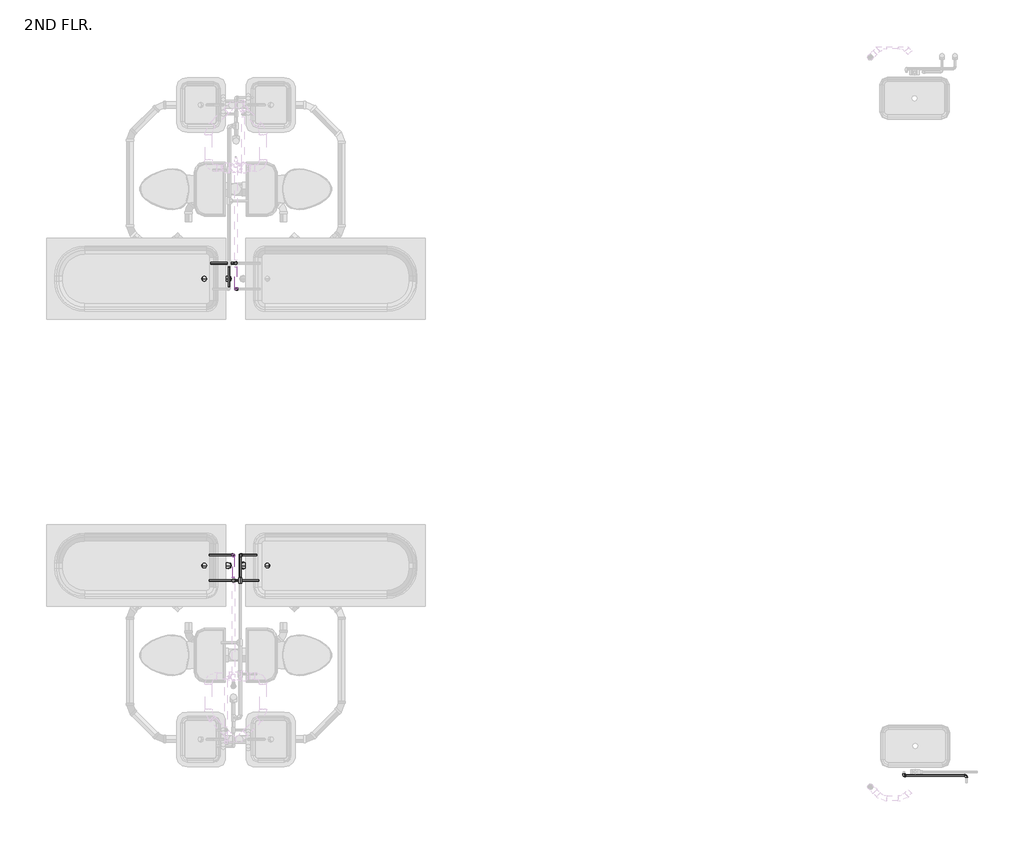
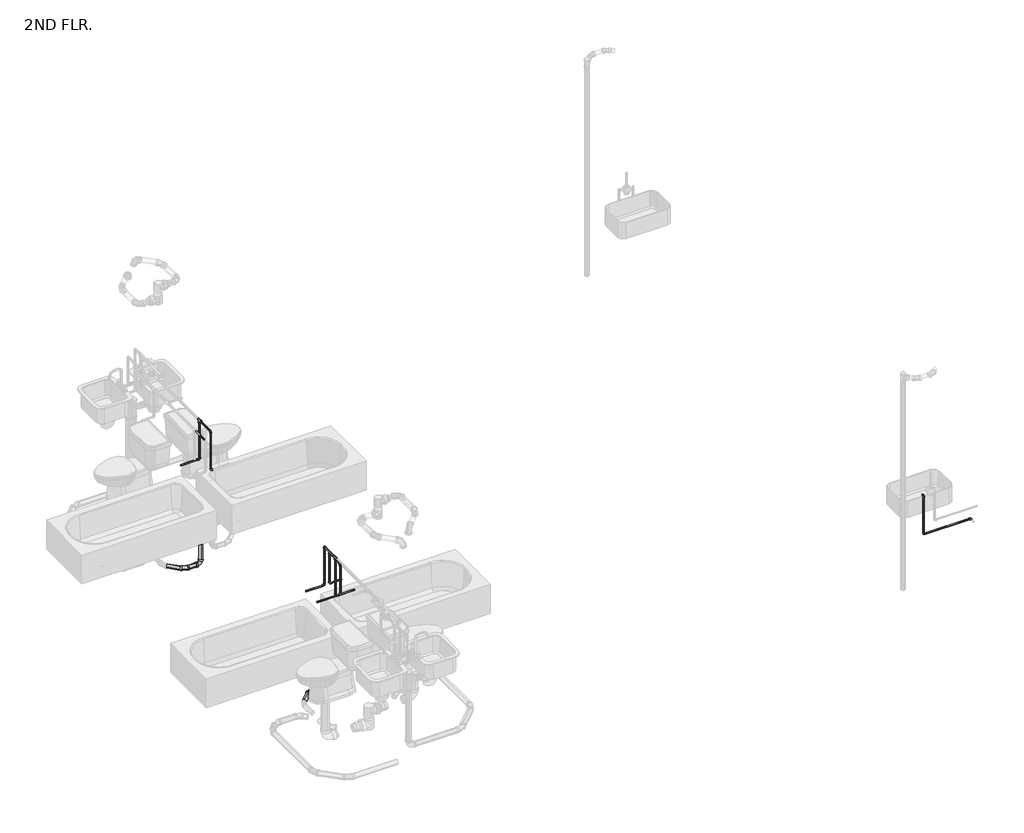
# One storey, part 12 of 15: 35 pipe fittings, 31 pipe segments.
"""IFC4 building model written with IfcOpenShell, lengths in millimetres."""

from ifc_helpers import new_model, si_unit, point, frame, frame_2d, origin, place, context, project, spatial, circle_curve, trimmed, segment, composite_curve, outline, extrude, transform, mapped, element, save
from components import bend_pvc_sch_40_dwv_standard_738aab8b, bend_pvc_sch_40_dwv_standard_e59a9f3a, bend_pvc_sch_40_dwv_standard_35af41d9, bend_pvc_sch_40_dwv_standard_c28c2be1, pipe_elbow_copper_k_aad62f2d, pipe_tee_copper_k_ee363fbf, pipe_transition_copper_k_859ff352, reducer_pvc_sch_40_dwv_standard_b2b0afcc, reducer_pvc_sch_40_dwv_standard_230e9924

model = new_model("IFC4")

# Units and contexts
model_context = context("Model", 3, world=origin())
ifc_project = project(units=[si_unit("LENGTHUNIT", "METRE", prefix="MILLI")], contexts=[model_context])

# Site, building, storey
site = spatial("IfcSite", under=ifc_project)
building = spatial("IfcBuilding", under=site)
storey = spatial("IfcBuildingStorey", under=building, Name="2ND FLR.", Elevation=2844.8)

# Pipe fittings
placement = place(None, origin())
bend_pvc_sch_40_dwv_standard_shape = bend_pvc_sch_40_dwv_standard_738aab8b(model_context)
element("IfcPipeFitting", 1, ObjectType="Bend - PVC - Sch 40 - DWV : Standard", at=placement, inside=storey, context=model_context, shape_type="MappedRepresentation", body=[
    mapped(bend_pvc_sch_40_dwv_standard_shape, transform((16872.7908411, 4158.9665853, 2762.4996815), x_axis=(0.0, 0.0, 1.0), y_axis=(-1.0, 0.0, 0.0), z_axis=(0.0, -1.0, 0.0))),
])
element("IfcPipeFitting", 2, ObjectType="Bend - PVC - Sch 40 - DWV : Standard", at=placement, inside=storey, context=model_context, shape_type="MappedRepresentation", body=[
    mapped(bend_pvc_sch_40_dwv_standard_shape, transform((16872.7908411, 4158.9686503, 2302.6025627), x_axis=(0.0, 0.0, -1.0), y_axis=(-1.0, 0.0, 0.0), z_axis=(0.0, 1.0, 0.0))),
])
element("IfcPipeFitting", 3, ObjectType="Bend - PVC - Sch 40 - DWV : Standard", at=placement, inside=storey, context=model_context, shape_type="MappedRepresentation", body=[
    mapped(bend_pvc_sch_40_dwv_standard_shape, transform((16567.9908411, 4158.9665853, 2762.4996815), x_axis=(-1.0, 0.0, 0.0), y_axis=(0.0, 0.0, 1.0), z_axis=(0.0, 1.0, 0.0))),
])
bend_pvc_sch_40_dwv_standard_2_shape = bend_pvc_sch_40_dwv_standard_e59a9f3a(model_context)
element("IfcPipeFitting", 4, ObjectType="Bend - PVC - Sch 40 - DWV : Standard", at=placement, inside=storey, context=model_context, shape_type="MappedRepresentation", body=[
    mapped(bend_pvc_sch_40_dwv_standard_2_shape, transform((16674.5030506, 4158.9686503, 2302.6025627), x_axis=(-1.0, 0.0, 0.0), y_axis=(0.0, -1.0, 0.0), z_axis=(0.0, 0.0, 1.0))),
])
bend_pvc_sch_40_dwv_standard_3_shape = bend_pvc_sch_40_dwv_standard_35af41d9(model_context)
element("IfcPipeFitting", 5, ObjectType="Bend - PVC - Sch 40 - DWV : Standard", at=placement, inside=storey, context=model_context, shape_type="MappedRepresentation", body=[
    mapped(bend_pvc_sch_40_dwv_standard_3_shape, transform((16872.7908411, 6842.0859908, 2762.4996815), x_axis=(0.0, 0.0, 1.0), y_axis=(1.0, 0.0, 0.0), z_axis=(0.0, 1.0, 0.0))),
])
element("IfcPipeFitting", 6, ObjectType="Bend - PVC - Sch 40 - DWV : Standard", at=placement, inside=storey, context=model_context, shape_type="MappedRepresentation", body=[
    mapped(bend_pvc_sch_40_dwv_standard_3_shape, transform((16872.7908411, 6842.0839258, 2291.2212536), x_axis=(0.0, 0.0, -1.0), y_axis=(1.0, 0.0, 0.0), z_axis=(0.0, -1.0, 0.0))),
])
element("IfcPipeFitting", 7, ObjectType="Bend - PVC - Sch 40 - DWV : Standard", at=placement, inside=storey, context=model_context, shape_type="MappedRepresentation", body=[
    mapped(bend_pvc_sch_40_dwv_standard_3_shape, transform((16567.9908411, 6842.0859908, 2762.4996815), x_axis=(-1.0, 0.0, 0.0), y_axis=(0.0, 0.0, -1.0), z_axis=(0.0, -1.0, 0.0))),
])
element("IfcPipeFitting", 8, ObjectType="Bend - PVC - Sch 40 - DWV : Standard", at=placement, inside=storey, context=model_context, shape_type="MappedRepresentation", body=[
    mapped(bend_pvc_sch_40_dwv_standard_3_shape, transform((17011.8261339, 4158.9665853, 2762.4996815), x_axis=(0.0, 0.0, 1.0), y_axis=(-1.0, 0.0, 0.0), z_axis=(0.0, -1.0, 0.0))),
])
element("IfcPipeFitting", 9, ObjectType="Bend - PVC - Sch 40 - DWV : Standard", at=placement, inside=storey, context=model_context, shape_type="MappedRepresentation", body=[
    mapped(bend_pvc_sch_40_dwv_standard_3_shape, transform((17011.8261339, 4158.96967, 2460.2762698), x_axis=(0.0, 0.0, -1.0), y_axis=(-1.0, 0.0, 0.0), z_axis=(0.0, 1.0, 0.0))),
])
element("IfcPipeFitting", 10, ObjectType="Bend - PVC - Sch 40 - DWV : Standard", at=placement, inside=storey, context=model_context, shape_type="MappedRepresentation", body=[
    mapped(bend_pvc_sch_40_dwv_standard_3_shape, transform((17316.6261339, 4158.9665853, 2762.4996815), x_axis=(1.0, 0.0, 0.0), y_axis=(0.0, 0.0, -1.0), z_axis=(0.0, 1.0, 0.0))),
])
bend_pvc_sch_40_dwv_standard_4_shape = bend_pvc_sch_40_dwv_standard_c28c2be1(model_context)
element("IfcPipeFitting", 11, ObjectType="Bend - PVC - Sch 40 - DWV : Standard", at=placement, inside=storey, context=model_context, shape_type="MappedRepresentation", body=[
    mapped(bend_pvc_sch_40_dwv_standard_4_shape, transform((16674.5030506, 6842.0839258, 2291.2212536), x_axis=(-1.0, 0.0, 0.0), y_axis=(0.0, -1.0, 0.0), z_axis=(0.0, 0.0, 1.0))),
])
element("IfcPipeFitting", 12, ObjectType="Bend - PVC - Sch 40 - DWV : Standard", at=placement, inside=storey, context=model_context, shape_type="MappedRepresentation", body=[
    mapped(bend_pvc_sch_40_dwv_standard_4_shape, transform((17210.114944, 4158.96967, 2460.2762698), x_axis=(1.0, 0.0, 0.0), y_axis=(0.0, 1.0, 0.0), z_axis=(0.0, 0.0, 1.0))),
])
pipe_elbow_copper_k_shape = pipe_elbow_copper_k_aad62f2d(model_context)
element("IfcPipeFitting", 13, ObjectType="Pipe Elbow : Copper- K", at=placement, inside=storey, context=model_context, shape_type="MappedRepresentation", body=[
    mapped(pipe_elbow_copper_k_shape, transform((16942.7084875, 6746.0012881, 4064.0), x_axis=(0.0, -1.0, 0.0), y_axis=(0.0, 0.0, -1.0), z_axis=(1.0, 0.0, 0.0))),
])
element("IfcPipeFitting", 14, ObjectType="Pipe Elbow : Copper- K", at=placement, inside=storey, context=model_context, shape_type="MappedRepresentation", body=[
    mapped(pipe_elbow_copper_k_shape, transform((16942.7084875, 6746.0012881, 3556.0), x_axis=(0.0, 0.0, -1.0), y_axis=(1.0, 0.0, 0.0), z_axis=(0.0, -1.0, 0.0))),
])
element("IfcPipeFitting", 15, ObjectType="Pipe Elbow : Copper- K", at=placement, inside=storey, context=model_context, shape_type="MappedRepresentation", body=[
    mapped(pipe_elbow_copper_k_shape, transform((16942.7084875, 6986.022219, 3556.0), x_axis=(0.0, 0.0, -1.0), y_axis=(-1.0, 0.0, 0.0), z_axis=(0.0, 1.0, 0.0))),
])
element("IfcPipeFitting", 16, ObjectType="Pipe Elbow : Copper- K", at=placement, inside=storey, context=model_context, shape_type="MappedRepresentation", body=[
    mapped(pipe_elbow_copper_k_shape, transform((16920.4834875, 4258.2262881, 4064.0), x_axis=(0.0, 1.0, 0.0), y_axis=(0.0, 0.0, -1.0), z_axis=(-1.0, 0.0, 0.0))),
])
element("IfcPipeFitting", 17, ObjectType="Pipe Elbow : Copper- K", at=placement, inside=storey, context=model_context, shape_type="MappedRepresentation", body=[
    mapped(pipe_elbow_copper_k_shape, transform((16920.4834875, 4258.2262881, 3556.0), x_axis=(0.0, 0.0, -1.0), y_axis=(-1.0, 0.0, 0.0), z_axis=(0.0, 1.0, 0.0))),
])
element("IfcPipeFitting", 18, ObjectType="Pipe Elbow : Copper- K", at=placement, inside=storey, context=model_context, shape_type="MappedRepresentation", body=[
    mapped(pipe_elbow_copper_k_shape, transform((16920.4834875, 4018.2053571, 3556.0), x_axis=(0.0, 0.0, -1.0), y_axis=(1.0, 0.0, 0.0), z_axis=(0.0, -1.0, 0.0))),
])
element("IfcPipeFitting", 19, ObjectType="Pipe Elbow : Copper- K", at=placement, inside=storey, context=model_context, shape_type="MappedRepresentation", body=[
    mapped(pipe_elbow_copper_k_shape, transform((16983.9834875, 4258.2262881, 3962.4), x_axis=(0.0, 1.0, 0.0), y_axis=(0.0, 0.0, -1.0), z_axis=(-1.0, 0.0, 0.0))),
])
element("IfcPipeFitting", 20, ObjectType="Pipe Elbow : Copper- K", at=placement, inside=storey, context=model_context, shape_type="MappedRepresentation", body=[
    mapped(pipe_elbow_copper_k_shape, transform((16983.9834875, 4258.2262881, 3556.0), x_axis=(0.0, 0.0, -1.0), y_axis=(1.0, 0.0, 0.0), z_axis=(0.0, -1.0, 0.0))),
])
element("IfcPipeFitting", 21, ObjectType="Pipe Elbow : Copper- K", at=placement, inside=storey, context=model_context, shape_type="MappedRepresentation", body=[
    mapped(pipe_elbow_copper_k_shape, transform((16983.9834875, 4018.2053571, 3556.0), x_axis=(0.0, 0.0, -1.0), y_axis=(-1.0, 0.0, 0.0), z_axis=(0.0, 1.0, 0.0))),
])
element("IfcPipeFitting", 22, ObjectType="Pipe Elbow : Copper- K", at=placement, inside=storey, context=model_context, shape_type="MappedRepresentation", body=[
    mapped(pipe_elbow_copper_k_shape, transform((23778.0391516, 2195.725865, 3281.6601562), x_axis=(0.0, 0.9999994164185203, 0.0010803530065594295), y_axis=(-1.0, 0.0, 0.0), z_axis=(0.0, -0.0010803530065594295, 0.9999994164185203))),
])
element("IfcPipeFitting", 23, ObjectType="Pipe Elbow : Copper- K", at=placement, inside=storey, context=model_context, shape_type="MappedRepresentation", body=[
    mapped(pipe_elbow_copper_k_shape, transform((23193.8391516, 2195.725865, 3281.6601562), x_axis=(-1.0, 0.0, 0.0), y_axis=(0.0, 0.0, 1.0), z_axis=(0.0, 1.0, 0.0))),
])
element("IfcPipeFitting", 24, ObjectType="Pipe Elbow : Copper- K", at=placement, inside=storey, context=model_context, shape_type="MappedRepresentation", body=[
    mapped(pipe_elbow_copper_k_shape, transform((23193.8391516, 2195.725865, 3789.6601562), x_axis=(0.0, 0.0, 1.0), y_axis=(0.0, 1.0, 0.0), z_axis=(-1.0, 0.0, 0.0))),
])
pipe_tee_copper_k_shape = pipe_tee_copper_k_ee363fbf(model_context)
element("IfcPipeFitting", 25, ObjectType="Pipe Tee : Copper- K", at=placement, inside=storey, context=model_context, shape_type="MappedRepresentation", body=[
    mapped(pipe_tee_copper_k_shape, transform((16942.7084875, 6986.022219, 4064.0), x_axis=(0.0, 1.0, 0.0), y_axis=(0.0, 0.0, 1.0), z_axis=(1.0, 0.0, 0.0))),
])
element("IfcPipeFitting", 26, ObjectType="Pipe Tee : Copper- K", at=placement, inside=storey, context=model_context, shape_type="MappedRepresentation", body=[
    mapped(pipe_tee_copper_k_shape, transform((16920.4834875, 4018.2053571, 4064.0), x_axis=(0.0, -1.0, 0.0), y_axis=(0.0, 0.0, 1.0), z_axis=(-1.0, 0.0, 0.0))),
])
element("IfcPipeFitting", 27, ObjectType="Pipe Tee : Copper- K", at=placement, inside=storey, context=model_context, shape_type="MappedRepresentation", body=[
    mapped(pipe_tee_copper_k_shape, transform((16983.9834875, 4018.2053571, 3962.4), x_axis=(0.0, -1.0, 0.0), y_axis=(0.0, 0.0, 1.0), z_axis=(-1.0, 0.0, 0.0))),
])
pipe_transition_copper_k_shape = pipe_transition_copper_k_859ff352(model_context)
element("IfcPipeFitting", 28, ObjectType="Pipe Transition : Copper- K", at=placement, inside=storey, context=model_context, shape_type="MappedRepresentation", body=[
    mapped(pipe_transition_copper_k_shape, transform((16942.7084875, 6986.022219, 4037.0125), x_axis=(0.0, 0.0, -1.0), y_axis=(0.0, -1.0, 0.0), z_axis=(-1.0, 0.0, 0.0))),
])
element("IfcPipeFitting", 29, ObjectType="Pipe Transition : Copper- K", at=placement, inside=storey, context=model_context, shape_type="MappedRepresentation", body=[
    mapped(pipe_transition_copper_k_shape, transform((16920.4834875, 4018.2053571, 4037.0125), x_axis=(0.0, 0.0, -1.0), y_axis=(0.0, 1.0, 0.0), z_axis=(1.0, 0.0, 0.0))),
])
element("IfcPipeFitting", 30, ObjectType="Pipe Transition : Copper- K", at=placement, inside=storey, context=model_context, shape_type="MappedRepresentation", body=[
    mapped(pipe_transition_copper_k_shape, transform((16983.9834875, 4018.2053571, 3935.4125), x_axis=(0.0, 0.0, -1.0), y_axis=(0.0, -1.0, 0.0), z_axis=(-1.0, 0.0, 0.0))),
])
element("IfcPipeFitting", 31, ObjectType="Pipe Transition : Copper- K", at=placement, inside=storey, context=model_context, shape_type="MappedRepresentation", body=[
    mapped(pipe_transition_copper_k_shape, transform((16920.4834875, 4045.1928571, 4064.0), x_axis=(0.0, 1.0, 0.0), y_axis=(-1.0, 0.0, 0.0), z_axis=(0.0, 0.0, 1.0))),
])
element("IfcPipeFitting", 32, ObjectType="Pipe Transition : Copper- K", at=placement, inside=storey, context=model_context, shape_type="MappedRepresentation", body=[
    mapped(pipe_transition_copper_k_shape, transform((16983.9834875, 4045.1928571, 3962.4), x_axis=(0.0, 1.0, 0.0), y_axis=(-1.0, 0.0, 0.0), z_axis=(0.0, 0.0, 1.0))),
])
reducer_pvc_sch_40_dwv_standard_shape = reducer_pvc_sch_40_dwv_standard_b2b0afcc(model_context)
element("IfcPipeFitting", 33, ObjectType="Reducer - PVC - Sch 40 - DWV : Standard", at=placement, inside=storey, context=model_context, shape_type="MappedRepresentation", body=[
    mapped(reducer_pvc_sch_40_dwv_standard_shape, transform((17011.8261339, 4158.9665853, 2700.5998815), x_axis=(0.0, 0.0, -1.0), y_axis=(0.0, -1.0, 0.0), z_axis=(-1.0, 0.0, 0.0))),
])
element("IfcPipeFitting", 34, ObjectType="Reducer - PVC - Sch 40 - DWV : Standard", at=placement, inside=storey, context=model_context, shape_type="MappedRepresentation", body=[
    mapped(reducer_pvc_sch_40_dwv_standard_shape, transform((17316.6261339, 4158.9665853, 2824.3994815), x_axis=(0.0, 0.0, 1.0), y_axis=(1.0, 0.0, 0.0), z_axis=(0.0, 1.0, 0.0))),
])
reducer_pvc_sch_40_dwv_standard_2_shape = reducer_pvc_sch_40_dwv_standard_230e9924(model_context)
element("IfcPipeFitting", 35, ObjectType="Reducer - PVC - Sch 40 - DWV : Standard", at=placement, inside=storey, context=model_context, shape_type="MappedRepresentation", body=[
    mapped(reducer_pvc_sch_40_dwv_standard_2_shape, transform((17011.8261339, 4158.96967, 2522.1760698), x_axis=(0.0, 0.0, 1.0), y_axis=(0.0, 1.0, 0.0), z_axis=(-1.0, 0.0, 0.0))),
])

# Pipe segments
element("IfcPipeSegment", 36, ObjectType="Copper", at=placement, inside=storey, context=model_context, shape_type="SweptSolid", body=[
    extrude(outline(composite_curve([segment(trimmed(circle_curve(frame_2d((4064.0, 16942.7084875)), 7.9375), [point((4064.0, 16934.7709875))], [point((4056.0625, 16942.7084875))], False, "CARTESIAN"), True, "CONTINUOUS"), segment(trimmed(circle_curve(frame_2d((4064.0, 16942.7084875)), 7.9375), [point((4056.0625, 16942.7084875))], [point((4064.0, 16950.6459875))], False, "CARTESIAN"), True, "CONTINUOUS"), segment(trimmed(circle_curve(frame_2d((4064.0, 16942.7084875)), 7.9375), [point((4064.0, 16950.6459875))], [point((4071.9375, 16942.7084875))], False, "CARTESIAN"), True, "CONTINUOUS"), segment(trimmed(circle_curve(frame_2d((4064.0, 16942.7084875)), 7.9375), [point((4071.9375, 16942.7084875))], [point((4064.0, 16934.7709875))], False, "CARTESIAN"), True, "CONTINUOUS")], self_intersect=False)), frame((0.0, 6763.4637881, 0.0), z_axis=(0.0, 1.0, 0.0), x_axis=(0.0, 0.0, 1.0)), (0.0, 0.0, 1.0), 190.0146809),
])
element("IfcPipeSegment", 37, ObjectType="Copper", at=placement, inside=storey, context=model_context, shape_type="SweptSolid", body=[
    extrude(outline(composite_curve([segment(trimmed(circle_curve(frame_2d((16942.7084875, 6746.0012881)), 7.9375), [point((16950.6459875, 6746.0012881))], [point((16942.7084875, 6738.0637881))], False, "CARTESIAN"), True, "CONTINUOUS"), segment(trimmed(circle_curve(frame_2d((16942.7084875, 6746.0012881)), 7.9375), [point((16942.7084875, 6738.0637881))], [point((16934.7709875, 6746.0012881))], False, "CARTESIAN"), True, "CONTINUOUS"), segment(trimmed(circle_curve(frame_2d((16942.7084875, 6746.0012881)), 7.9375), [point((16934.7709875, 6746.0012881))], [point((16942.7084875, 6753.9387881))], False, "CARTESIAN"), True, "CONTINUOUS"), segment(trimmed(circle_curve(frame_2d((16942.7084875, 6746.0012881)), 7.9375), [point((16942.7084875, 6753.9387881))], [point((16950.6459875, 6746.0012881))], False, "CARTESIAN"), True, "CONTINUOUS")], self_intersect=False)), frame((0.0, 0.0, 3573.4625), z_axis=(0.0, 0.0, 1.0), x_axis=(1.0, 0.0, 0.0)), (0.0, 0.0, 1.0), 473.075),
])
element("IfcPipeSegment", 38, ObjectType="Copper", at=placement, inside=storey, context=model_context, shape_type="SweptSolid", body=[
    extrude(outline(composite_curve([segment(trimmed(circle_curve(frame_2d((6986.022219, 3556.0)), 7.9375), [point((6993.959719, 3556.0))], [point((6986.022219, 3548.0625))], False, "CARTESIAN"), True, "CONTINUOUS"), segment(trimmed(circle_curve(frame_2d((6986.022219, 3556.0)), 7.9375), [point((6986.022219, 3548.0625))], [point((6978.084719, 3556.0))], False, "CARTESIAN"), True, "CONTINUOUS"), segment(trimmed(circle_curve(frame_2d((6986.022219, 3556.0)), 7.9375), [point((6978.084719, 3556.0))], [point((6986.022219, 3563.9375))], False, "CARTESIAN"), True, "CONTINUOUS"), segment(trimmed(circle_curve(frame_2d((6986.022219, 3556.0)), 7.9375), [point((6986.022219, 3563.9375))], [point((6993.959719, 3556.0))], False, "CARTESIAN"), True, "CONTINUOUS")], self_intersect=False)), frame((16707.7584875, 0.0, 0.0), z_axis=(1.0, 0.0, 0.0), x_axis=(0.0, 1.0, 0.0)), (0.0, 0.0, 1.0), 217.4875),
])
element("IfcPipeSegment", 39, ObjectType="Copper", at=placement, inside=storey, context=model_context, shape_type="SweptSolid", body=[
    extrude(outline(composite_curve([segment(trimmed(circle_curve(frame_2d((16942.7084875, 6986.022219)), 7.9375), [point((16950.6459875, 6986.022219))], [point((16942.7084875, 6978.084719))], False, "CARTESIAN"), True, "CONTINUOUS"), segment(trimmed(circle_curve(frame_2d((16942.7084875, 6986.022219)), 7.9375), [point((16942.7084875, 6978.084719))], [point((16934.7709875, 6986.022219))], False, "CARTESIAN"), True, "CONTINUOUS"), segment(trimmed(circle_curve(frame_2d((16942.7084875, 6986.022219)), 7.9375), [point((16934.7709875, 6986.022219))], [point((16942.7084875, 6993.959719))], False, "CARTESIAN"), True, "CONTINUOUS"), segment(trimmed(circle_curve(frame_2d((16942.7084875, 6986.022219)), 7.9375), [point((16942.7084875, 6993.959719))], [point((16950.6459875, 6986.022219))], False, "CARTESIAN"), True, "CONTINUOUS")], self_intersect=False)), frame((0.0, 0.0, 3573.4625), z_axis=(0.0, 0.0, 1.0), x_axis=(1.0, 0.0, 0.0)), (0.0, 0.0, 1.0), 457.99375),
])
element("IfcPipeSegment", 40, ObjectType="Copper", at=placement, inside=storey, context=model_context, shape_type="SweptSolid", body=[
    extrude(outline(composite_curve([segment(trimmed(circle_curve(frame_2d((3962.4, 16879.2084875)), 7.9375), [point((3962.4, 16871.2709875))], [point((3954.4625, 16879.2084875))], False, "CARTESIAN"), True, "CONTINUOUS"), segment(trimmed(circle_curve(frame_2d((3962.4, 16879.2084875)), 7.9375), [point((3954.4625, 16879.2084875))], [point((3962.4, 16887.1459875))], False, "CARTESIAN"), True, "CONTINUOUS"), segment(trimmed(circle_curve(frame_2d((3962.4, 16879.2084875)), 7.9375), [point((3962.4, 16887.1459875))], [point((3970.3375, 16879.2084875))], False, "CARTESIAN"), True, "CONTINUOUS"), segment(trimmed(circle_curve(frame_2d((3962.4, 16879.2084875)), 7.9375), [point((3970.3375, 16879.2084875))], [point((3962.4, 16871.2709875))], False, "CARTESIAN"), True, "CONTINUOUS")], self_intersect=False)), frame((0.0, 6763.4637881, 0.0), z_axis=(0.0, 1.0, 0.0), x_axis=(0.0, 0.0, 1.0)), (0.0, 0.0, 1.0), 190.0146809),
])
element("IfcPipeSegment", 41, ObjectType="Copper", at=placement, inside=storey, context=model_context, shape_type="SweptSolid", body=[
    extrude(outline(composite_curve([segment(trimmed(circle_curve(frame_2d((4064.0, 16920.4834875)), 7.9375), [point((4064.0, 16928.4209875))], [point((4071.9375, 16920.4834875))], False, "CARTESIAN"), True, "CONTINUOUS"), segment(trimmed(circle_curve(frame_2d((4064.0, 16920.4834875)), 7.9375), [point((4071.9375, 16920.4834875))], [point((4064.0, 16912.5459875))], False, "CARTESIAN"), True, "CONTINUOUS"), segment(trimmed(circle_curve(frame_2d((4064.0, 16920.4834875)), 7.9375), [point((4064.0, 16912.5459875))], [point((4056.0625, 16920.4834875))], False, "CARTESIAN"), True, "CONTINUOUS"), segment(trimmed(circle_curve(frame_2d((4064.0, 16920.4834875)), 7.9375), [point((4056.0625, 16920.4834875))], [point((4064.0, 16928.4209875))], False, "CARTESIAN"), True, "CONTINUOUS")], self_intersect=False)), frame((0.0, 4050.7491071, 0.0), z_axis=(0.0, 1.0, 0.0), x_axis=(0.0, 0.0, 1.0)), (0.0, 0.0, 1.0), 190.0146809),
])
element("IfcPipeSegment", 42, ObjectType="Copper", at=placement, inside=storey, context=model_context, shape_type="SweptSolid", body=[
    extrude(outline(composite_curve([segment(trimmed(circle_curve(frame_2d((4258.2262881, 3556.0)), 7.9375), [point((4266.1637881, 3556.0))], [point((4258.2262881, 3548.0625))], False, "CARTESIAN"), True, "CONTINUOUS"), segment(trimmed(circle_curve(frame_2d((4258.2262881, 3556.0)), 7.9375), [point((4258.2262881, 3548.0625))], [point((4250.2887881, 3556.0))], False, "CARTESIAN"), True, "CONTINUOUS"), segment(trimmed(circle_curve(frame_2d((4258.2262881, 3556.0)), 7.9375), [point((4250.2887881, 3556.0))], [point((4258.2262881, 3563.9375))], False, "CARTESIAN"), True, "CONTINUOUS"), segment(trimmed(circle_curve(frame_2d((4258.2262881, 3556.0)), 7.9375), [point((4258.2262881, 3563.9375))], [point((4266.1637881, 3556.0))], False, "CARTESIAN"), True, "CONTINUOUS")], self_intersect=False)), frame((16691.8834875, 0.0, 0.0), z_axis=(1.0, 0.0, 0.0), x_axis=(0.0, 1.0, 0.0)), (0.0, 0.0, 1.0), 211.1375),
])
element("IfcPipeSegment", 43, ObjectType="Copper", at=placement, inside=storey, context=model_context, shape_type="SweptSolid", body=[
    extrude(outline(composite_curve([segment(trimmed(circle_curve(frame_2d((16920.4834875, 4258.2262881)), 7.9375), [point((16928.4209875, 4258.2262881))], [point((16920.4834875, 4250.2887881))], False, "CARTESIAN"), True, "CONTINUOUS"), segment(trimmed(circle_curve(frame_2d((16920.4834875, 4258.2262881)), 7.9375), [point((16920.4834875, 4250.2887881))], [point((16912.5459875, 4258.2262881))], False, "CARTESIAN"), True, "CONTINUOUS"), segment(trimmed(circle_curve(frame_2d((16920.4834875, 4258.2262881)), 7.9375), [point((16912.5459875, 4258.2262881))], [point((16920.4834875, 4266.1637881))], False, "CARTESIAN"), True, "CONTINUOUS"), segment(trimmed(circle_curve(frame_2d((16920.4834875, 4258.2262881)), 7.9375), [point((16920.4834875, 4266.1637881))], [point((16928.4209875, 4258.2262881))], False, "CARTESIAN"), True, "CONTINUOUS")], self_intersect=False)), frame((0.0, 0.0, 3573.4625), z_axis=(0.0, 0.0, 1.0), x_axis=(1.0, 0.0, 0.0)), (0.0, 0.0, 1.0), 473.075),
])
element("IfcPipeSegment", 44, ObjectType="Copper", at=placement, inside=storey, context=model_context, shape_type="SweptSolid", body=[
    extrude(outline(composite_curve([segment(trimmed(circle_curve(frame_2d((4018.2053571, 3556.0)), 7.9375), [point((4010.2678571, 3556.0))], [point((4018.2053571, 3563.9375))], False, "CARTESIAN"), True, "CONTINUOUS"), segment(trimmed(circle_curve(frame_2d((4018.2053571, 3556.0)), 7.9375), [point((4018.2053571, 3563.9375))], [point((4026.1428571, 3556.0))], False, "CARTESIAN"), True, "CONTINUOUS"), segment(trimmed(circle_curve(frame_2d((4018.2053571, 3556.0)), 7.9375), [point((4026.1428571, 3556.0))], [point((4018.2053571, 3548.0625))], False, "CARTESIAN"), True, "CONTINUOUS"), segment(trimmed(circle_curve(frame_2d((4018.2053571, 3556.0)), 7.9375), [point((4018.2053571, 3548.0625))], [point((4010.2678571, 3556.0))], False, "CARTESIAN"), True, "CONTINUOUS")], self_intersect=False)), frame((16937.9459875, 0.0, 0.0), z_axis=(1.0, 0.0, 0.0), x_axis=(0.0, 1.0, 0.0)), (0.0, 0.0, 1.0), 217.4875),
])
element("IfcPipeSegment", 45, ObjectType="Copper", at=placement, inside=storey, context=model_context, shape_type="SweptSolid", body=[
    extrude(outline(composite_curve([segment(trimmed(circle_curve(frame_2d((16920.4834875, 4018.2053571)), 7.9375), [point((16928.4209875, 4018.2053571))], [point((16920.4834875, 4010.2678571))], False, "CARTESIAN"), True, "CONTINUOUS"), segment(trimmed(circle_curve(frame_2d((16920.4834875, 4018.2053571)), 7.9375), [point((16920.4834875, 4010.2678571))], [point((16912.5459875, 4018.2053571))], False, "CARTESIAN"), True, "CONTINUOUS"), segment(trimmed(circle_curve(frame_2d((16920.4834875, 4018.2053571)), 7.9375), [point((16912.5459875, 4018.2053571))], [point((16920.4834875, 4026.1428571))], False, "CARTESIAN"), True, "CONTINUOUS"), segment(trimmed(circle_curve(frame_2d((16920.4834875, 4018.2053571)), 7.9375), [point((16920.4834875, 4026.1428571))], [point((16928.4209875, 4018.2053571))], False, "CARTESIAN"), True, "CONTINUOUS")], self_intersect=False)), frame((0.0, 0.0, 3573.4625), z_axis=(0.0, 0.0, 1.0), x_axis=(1.0, 0.0, 0.0)), (0.0, 0.0, 1.0), 457.99375),
])
element("IfcPipeSegment", 46, ObjectType="Copper", at=placement, inside=storey, context=model_context, shape_type="SweptSolid", body=[
    extrude(outline(composite_curve([segment(trimmed(circle_curve(frame_2d((3962.4, 16983.9834875)), 7.9375), [point((3962.4, 16991.9209875))], [point((3970.3375, 16983.9834875))], False, "CARTESIAN"), True, "CONTINUOUS"), segment(trimmed(circle_curve(frame_2d((3962.4, 16983.9834875)), 7.9375), [point((3970.3375, 16983.9834875))], [point((3962.4, 16976.0459875))], False, "CARTESIAN"), True, "CONTINUOUS"), segment(trimmed(circle_curve(frame_2d((3962.4, 16983.9834875)), 7.9375), [point((3962.4, 16976.0459875))], [point((3954.4625, 16983.9834875))], False, "CARTESIAN"), True, "CONTINUOUS"), segment(trimmed(circle_curve(frame_2d((3962.4, 16983.9834875)), 7.9375), [point((3954.4625, 16983.9834875))], [point((3962.4, 16991.9209875))], False, "CARTESIAN"), True, "CONTINUOUS")], self_intersect=False)), frame((0.0, 4050.7491071, 0.0), z_axis=(0.0, 1.0, 0.0), x_axis=(0.0, 0.0, 1.0)), (0.0, 0.0, 1.0), 190.0146809),
])
element("IfcPipeSegment", 47, ObjectType="Copper", at=placement, inside=storey, context=model_context, shape_type="SweptSolid", body=[
    extrude(outline(composite_curve([segment(trimmed(circle_curve(frame_2d((4258.2262881, 3556.0)), 7.9375), [point((4250.2887881, 3556.0))], [point((4258.2262881, 3563.9375))], False, "CARTESIAN"), True, "CONTINUOUS"), segment(trimmed(circle_curve(frame_2d((4258.2262881, 3556.0)), 7.9375), [point((4258.2262881, 3563.9375))], [point((4266.1637881, 3556.0))], False, "CARTESIAN"), True, "CONTINUOUS"), segment(trimmed(circle_curve(frame_2d((4258.2262881, 3556.0)), 7.9375), [point((4266.1637881, 3556.0))], [point((4258.2262881, 3548.0625))], False, "CARTESIAN"), True, "CONTINUOUS"), segment(trimmed(circle_curve(frame_2d((4258.2262881, 3556.0)), 7.9375), [point((4258.2262881, 3548.0625))], [point((4250.2887881, 3556.0))], False, "CARTESIAN"), True, "CONTINUOUS")], self_intersect=False)), frame((17001.4459875, 0.0, 0.0), z_axis=(1.0, 0.0, 0.0), x_axis=(0.0, 1.0, 0.0)), (0.0, 0.0, 1.0), 134.9375),
])
element("IfcPipeSegment", 48, ObjectType="Copper", at=placement, inside=storey, context=model_context, shape_type="SweptSolid", body=[
    extrude(outline(composite_curve([segment(trimmed(circle_curve(frame_2d((16983.9834875, 4258.2262881)), 7.9375), [point((16991.9209875, 4258.2262881))], [point((16983.9834875, 4250.2887881))], False, "CARTESIAN"), True, "CONTINUOUS"), segment(trimmed(circle_curve(frame_2d((16983.9834875, 4258.2262881)), 7.9375), [point((16983.9834875, 4250.2887881))], [point((16976.0459875, 4258.2262881))], False, "CARTESIAN"), True, "CONTINUOUS"), segment(trimmed(circle_curve(frame_2d((16983.9834875, 4258.2262881)), 7.9375), [point((16976.0459875, 4258.2262881))], [point((16983.9834875, 4266.1637881))], False, "CARTESIAN"), True, "CONTINUOUS"), segment(trimmed(circle_curve(frame_2d((16983.9834875, 4258.2262881)), 7.9375), [point((16983.9834875, 4266.1637881))], [point((16991.9209875, 4258.2262881))], False, "CARTESIAN"), True, "CONTINUOUS")], self_intersect=False)), frame((0.0, 0.0, 3573.4625), z_axis=(0.0, 0.0, 1.0), x_axis=(1.0, 0.0, 0.0)), (0.0, 0.0, 1.0), 371.475),
])
element("IfcPipeSegment", 49, ObjectType="Copper", at=placement, inside=storey, context=model_context, shape_type="SweptSolid", body=[
    extrude(outline(composite_curve([segment(trimmed(circle_curve(frame_2d((4018.2053571, 3556.0)), 7.9375), [point((4026.1428571, 3556.0))], [point((4018.2053571, 3548.0625))], False, "CARTESIAN"), True, "CONTINUOUS"), segment(trimmed(circle_curve(frame_2d((4018.2053571, 3556.0)), 7.9375), [point((4018.2053571, 3548.0625))], [point((4010.2678571, 3556.0))], False, "CARTESIAN"), True, "CONTINUOUS"), segment(trimmed(circle_curve(frame_2d((4018.2053571, 3556.0)), 7.9375), [point((4010.2678571, 3556.0))], [point((4018.2053571, 3563.9375))], False, "CARTESIAN"), True, "CONTINUOUS"), segment(trimmed(circle_curve(frame_2d((4018.2053571, 3556.0)), 7.9375), [point((4018.2053571, 3563.9375))], [point((4026.1428571, 3556.0))], False, "CARTESIAN"), True, "CONTINUOUS")], self_intersect=False)), frame((16691.8834875, 0.0, 0.0), z_axis=(1.0, 0.0, 0.0), x_axis=(0.0, 1.0, 0.0)), (0.0, 0.0, 1.0), 274.6375),
])
element("IfcPipeSegment", 50, ObjectType="Copper", at=placement, inside=storey, context=model_context, shape_type="SweptSolid", body=[
    extrude(outline(composite_curve([segment(trimmed(circle_curve(frame_2d((16983.9834875, 4018.2053571)), 7.9375), [point((16991.9209875, 4018.2053571))], [point((16983.9834875, 4010.2678571))], False, "CARTESIAN"), True, "CONTINUOUS"), segment(trimmed(circle_curve(frame_2d((16983.9834875, 4018.2053571)), 7.9375), [point((16983.9834875, 4010.2678571))], [point((16976.0459875, 4018.2053571))], False, "CARTESIAN"), True, "CONTINUOUS"), segment(trimmed(circle_curve(frame_2d((16983.9834875, 4018.2053571)), 7.9375), [point((16976.0459875, 4018.2053571))], [point((16983.9834875, 4026.1428571))], False, "CARTESIAN"), True, "CONTINUOUS"), segment(trimmed(circle_curve(frame_2d((16983.9834875, 4018.2053571)), 7.9375), [point((16983.9834875, 4026.1428571))], [point((16991.9209875, 4018.2053571))], False, "CARTESIAN"), True, "CONTINUOUS")], self_intersect=False)), frame((0.0, 0.0, 3573.4625), z_axis=(0.0, 0.0, 1.0), x_axis=(1.0, 0.0, 0.0)), (0.0, 0.0, 1.0), 356.39375),
])
element("IfcPipeSegment", 51, ObjectType="Copper", at=placement, inside=storey, context=model_context, shape_type="SweptSolid", body=[
    extrude(outline(composite_curve([segment(trimmed(circle_curve(frame_2d((2195.725865, 3281.6601562)), 7.9375), [point((2203.663365, 3281.6601562))], [point((2195.725865, 3273.7226562))], False, "CARTESIAN"), True, "CONTINUOUS"), segment(trimmed(circle_curve(frame_2d((2195.725865, 3281.6601562)), 7.9375), [point((2195.725865, 3273.7226562))], [point((2187.788365, 3281.6601562))], False, "CARTESIAN"), True, "CONTINUOUS"), segment(trimmed(circle_curve(frame_2d((2195.725865, 3281.6601562)), 7.9375), [point((2187.788365, 3281.6601562))], [point((2195.725865, 3289.5976562))], False, "CARTESIAN"), True, "CONTINUOUS"), segment(trimmed(circle_curve(frame_2d((2195.725865, 3281.6601562)), 7.9375), [point((2195.725865, 3289.5976562))], [point((2203.663365, 3281.6601562))], False, "CARTESIAN"), True, "CONTINUOUS")], self_intersect=False)), frame((23211.3016516, 0.0, 0.0), z_axis=(1.0, 0.0, 0.0), x_axis=(0.0, 1.0, 0.0)), (0.0, 0.0, 1.0), 549.275),
])
element("IfcPipeSegment", 52, ObjectType="Copper", at=placement, inside=storey, context=model_context, shape_type="SweptSolid", body=[
    extrude(outline(composite_curve([segment(trimmed(circle_curve(frame_2d((23193.8391516, 2195.725865)), 7.9375), [point((23185.9016516, 2195.725865))], [point((23193.8391516, 2203.663365))], False, "CARTESIAN"), True, "CONTINUOUS"), segment(trimmed(circle_curve(frame_2d((23193.8391516, 2195.725865)), 7.9375), [point((23193.8391516, 2203.663365))], [point((23201.7766516, 2195.725865))], False, "CARTESIAN"), True, "CONTINUOUS"), segment(trimmed(circle_curve(frame_2d((23193.8391516, 2195.725865)), 7.9375), [point((23201.7766516, 2195.725865))], [point((23193.8391516, 2187.788365))], False, "CARTESIAN"), True, "CONTINUOUS"), segment(trimmed(circle_curve(frame_2d((23193.8391516, 2195.725865)), 7.9375), [point((23193.8391516, 2187.788365))], [point((23185.9016516, 2195.725865))], False, "CARTESIAN"), True, "CONTINUOUS")], self_intersect=False)), frame((0.0, 0.0, 3299.1226562), z_axis=(0.0, 0.0, 1.0), x_axis=(1.0, 0.0, 0.0)), (0.0, 0.0, 1.0), 473.075),
])
element("IfcPipeSegment", 53, ObjectType="PVC - SAN/STORM", at=placement, inside=storey, context=model_context, shape_type="SweptSolid", body=[
    extrude(outline(composite_curve([segment(trimmed(circle_curve(frame_2d((6842.0839258, 2291.2212536)), 24.13), [point((6866.2139258, 2291.2212536))], [point((6842.0839258, 2267.0912536))], False, "CARTESIAN"), True, "CONTINUOUS"), segment(trimmed(circle_curve(frame_2d((6842.0839258, 2291.2212536)), 24.13), [point((6842.0839258, 2267.0912536))], [point((6817.9539258, 2291.2212536))], False, "CARTESIAN"), True, "CONTINUOUS"), segment(trimmed(circle_curve(frame_2d((6842.0839258, 2291.2212536)), 24.13), [point((6817.9539258, 2291.2212536))], [point((6842.0839258, 2315.3512536))], False, "CARTESIAN"), True, "CONTINUOUS"), segment(trimmed(circle_curve(frame_2d((6842.0839258, 2291.2212536)), 24.13), [point((6842.0839258, 2315.3512536))], [point((6866.2139258, 2291.2212536))], False, "CARTESIAN"), True, "CONTINUOUS")], self_intersect=False)), frame((16720.5278506, 0.0, 0.0), z_axis=(1.0, 0.0, 0.0), x_axis=(0.0, 1.0, 0.0)), (0.0, 0.0, 1.0), 90.3631904),
])
element("IfcPipeSegment", 54, ObjectType="PVC - SAN/STORM", at=placement, inside=storey, context=model_context, shape_type="SweptSolid", body=[
    extrude(outline(composite_curve([segment(trimmed(circle_curve(frame_2d((6842.0859908, 2762.4996815)), 24.13), [point((6866.2159908, 2762.4996815))], [point((6842.0859908, 2738.3696815))], False, "CARTESIAN"), True, "CONTINUOUS"), segment(trimmed(circle_curve(frame_2d((6842.0859908, 2762.4996815)), 24.13), [point((6842.0859908, 2738.3696815))], [point((6817.9559908, 2762.4996815))], False, "CARTESIAN"), True, "CONTINUOUS"), segment(trimmed(circle_curve(frame_2d((6842.0859908, 2762.4996815)), 24.13), [point((6817.9559908, 2762.4996815))], [point((6842.0859908, 2786.6296815))], False, "CARTESIAN"), True, "CONTINUOUS"), segment(trimmed(circle_curve(frame_2d((6842.0859908, 2762.4996815)), 24.13), [point((6842.0859908, 2786.6296815))], [point((6866.2159908, 2762.4996815))], False, "CARTESIAN"), True, "CONTINUOUS")], self_intersect=False)), frame((16629.8906411, 0.0, 0.0), z_axis=(1.0, 0.0, 0.0), x_axis=(0.0, 1.0, 0.0)), (0.0, 0.0, 1.0), 181.0004),
])
element("IfcPipeSegment", 55, ObjectType="PVC - SAN/STORM", at=placement, inside=storey, context=model_context, shape_type="SweptSolid", body=[
    extrude(outline(composite_curve([segment(trimmed(circle_curve(frame_2d((0.0, 24.13)), 24.13), [point((-24.13, 24.13))], [point((0.0, 48.26))], False, "CARTESIAN"), True, "CONTINUOUS"), segment(trimmed(circle_curve(frame_2d((0.0, 24.13)), 24.13), [point((0.0, 48.26))], [point((24.13, 24.13))], False, "CARTESIAN"), True, "CONTINUOUS"), segment(trimmed(circle_curve(frame_2d((0.0, 24.13)), 24.13), [point((24.13, 24.13))], [point((0.0, 0.0))], False, "CARTESIAN"), True, "CONTINUOUS"), segment(trimmed(circle_curve(frame_2d((0.0, 24.13)), 24.13), [point((0.0, 0.0))], [point((-24.13, 24.13))], False, "CARTESIAN"), True, "CONTINUOUS")], self_intersect=False)), frame((16872.7908411, 6817.9539258, 2353.121197), z_axis=(0.0, 5.9426964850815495e-06, 0.9999999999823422), x_axis=(1.0, 0.0, 0.0)), (0.0, 0.0, 1.0), 347.478828),
])
element("IfcPipeSegment", 56, ObjectType="PVC - SAN/STORM", at=placement, inside=storey, context=model_context, shape_type="SweptSolid", body=[
    extrude(outline(composite_curve([segment(trimmed(circle_curve(frame_2d((0.0, -24.13)), 24.13), [point((-24.13, -24.13))], [point((0.0, 0.0))], False, "CARTESIAN"), True, "CONTINUOUS"), segment(trimmed(circle_curve(frame_2d((0.0, -24.13)), 24.13), [point((0.0, 0.0))], [point((24.13, -24.13))], False, "CARTESIAN"), True, "CONTINUOUS"), segment(trimmed(circle_curve(frame_2d((0.0, -24.13)), 24.13), [point((24.13, -24.13))], [point((0.0, -48.26))], False, "CARTESIAN"), True, "CONTINUOUS"), segment(trimmed(circle_curve(frame_2d((0.0, -24.13)), 24.13), [point((0.0, -48.26))], [point((-24.13, -24.13))], False, "CARTESIAN"), True, "CONTINUOUS")], self_intersect=False)), frame((16641.9586025, 6874.628374, 2267.0912536), z_axis=(-0.7071067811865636, 0.7071067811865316, 0.0), x_axis=(0.7071067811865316, 0.7071067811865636, 0.0)), (0.0, 0.0, 1.0), 154.3381238),
])
element("IfcPipeSegment", 57, ObjectType="PVC - SAN/STORM", at=placement, inside=storey, context=model_context, shape_type="SweptSolid", body=[
    extrude(outline(composite_curve([segment(trimmed(circle_curve(frame_2d((16567.9908411, 6842.0859908)), 24.13), [point((16543.8608411, 6842.0859908))], [point((16567.9908411, 6866.2159908))], False, "CARTESIAN"), True, "CONTINUOUS"), segment(trimmed(circle_curve(frame_2d((16567.9908411, 6842.0859908)), 24.13), [point((16567.9908411, 6866.2159908))], [point((16592.1208411, 6842.0859908))], False, "CARTESIAN"), True, "CONTINUOUS"), segment(trimmed(circle_curve(frame_2d((16567.9908411, 6842.0859908)), 24.13), [point((16592.1208411, 6842.0859908))], [point((16567.9908411, 6817.9559908))], False, "CARTESIAN"), True, "CONTINUOUS"), segment(trimmed(circle_curve(frame_2d((16567.9908411, 6842.0859908)), 24.13), [point((16567.9908411, 6817.9559908))], [point((16543.8608411, 6842.0859908))], False, "CARTESIAN"), True, "CONTINUOUS")], self_intersect=False)), frame((0.0, 0.0, 2824.3994815), z_axis=(0.0, 0.0, 1.0), x_axis=(1.0, 0.0, 0.0)), (0.0, 0.0, 1.0), 52.4002),
])
element("IfcPipeSegment", 58, ObjectType="PVC - SAN/STORM", at=placement, inside=storey, context=model_context, shape_type="SweptSolid", body=[
    extrude(outline(composite_curve([segment(trimmed(circle_curve(frame_2d((4158.96967, 2460.2762698)), 24.13), [point((4134.83967, 2460.2762698))], [point((4158.96967, 2484.4062698))], False, "CARTESIAN"), True, "CONTINUOUS"), segment(trimmed(circle_curve(frame_2d((4158.96967, 2460.2762698)), 24.13), [point((4158.96967, 2484.4062698))], [point((4183.09967, 2460.2762698))], False, "CARTESIAN"), True, "CONTINUOUS"), segment(trimmed(circle_curve(frame_2d((4158.96967, 2460.2762698)), 24.13), [point((4183.09967, 2460.2762698))], [point((4158.96967, 2436.1462698))], False, "CARTESIAN"), True, "CONTINUOUS"), segment(trimmed(circle_curve(frame_2d((4158.96967, 2460.2762698)), 24.13), [point((4158.96967, 2436.1462698))], [point((4134.83967, 2460.2762698))], False, "CARTESIAN"), True, "CONTINUOUS")], self_intersect=False)), frame((17073.7259339, 0.0, 0.0), z_axis=(1.0, 0.0, 0.0), x_axis=(0.0, 1.0, 0.0)), (0.0, 0.0, 1.0), 90.3642101),
])
element("IfcPipeSegment", 59, ObjectType="PVC - SAN/STORM", at=placement, inside=storey, context=model_context, shape_type="SweptSolid", body=[
    extrude(outline(composite_curve([segment(trimmed(circle_curve(frame_2d((4158.9665853, 2762.4996815)), 24.13), [point((4134.8365853, 2762.4996815))], [point((4158.9665853, 2786.6296815))], False, "CARTESIAN"), True, "CONTINUOUS"), segment(trimmed(circle_curve(frame_2d((4158.9665853, 2762.4996815)), 24.13), [point((4158.9665853, 2786.6296815))], [point((4183.0965853, 2762.4996815))], False, "CARTESIAN"), True, "CONTINUOUS"), segment(trimmed(circle_curve(frame_2d((4158.9665853, 2762.4996815)), 24.13), [point((4183.0965853, 2762.4996815))], [point((4158.9665853, 2738.3696815))], False, "CARTESIAN"), True, "CONTINUOUS"), segment(trimmed(circle_curve(frame_2d((4158.9665853, 2762.4996815)), 24.13), [point((4158.9665853, 2738.3696815))], [point((4134.8365853, 2762.4996815))], False, "CARTESIAN"), True, "CONTINUOUS")], self_intersect=False)), frame((17073.7259339, 0.0, 0.0), z_axis=(1.0, 0.0, 0.0), x_axis=(0.0, 1.0, 0.0)), (0.0, 0.0, 1.0), 181.0004),
])
element("IfcPipeSegment", 60, ObjectType="PVC - SAN/STORM", at=placement, inside=storey, context=model_context, shape_type="SweptSolid", body=[
    extrude(outline(composite_curve([segment(trimmed(circle_curve(frame_2d((0.0, 30.1625)), 30.1625), [point((-30.1625, 30.1625))], [point((0.0, 60.325))], False, "CARTESIAN"), True, "CONTINUOUS"), segment(trimmed(circle_curve(frame_2d((0.0, 30.1625)), 30.1625), [point((0.0, 60.325))], [point((30.1625, 30.1625))], False, "CARTESIAN"), True, "CONTINUOUS"), segment(trimmed(circle_curve(frame_2d((0.0, 30.1625)), 30.1625), [point((30.1625, 30.1625))], [point((0.0, 0.0))], False, "CARTESIAN"), True, "CONTINUOUS"), segment(trimmed(circle_curve(frame_2d((0.0, 30.1625)), 30.1625), [point((0.0, 0.0))], [point((-30.1625, 30.1625))], False, "CARTESIAN"), True, "CONTINUOUS")], self_intersect=False)), frame((17011.8261339, 4128.80717, 2572.1620838), z_axis=(0.0, -3.9320117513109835e-05, 0.9999999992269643), x_axis=(1.0, 0.0, 0.0)), (0.0, 0.0, 1.0), 78.4494118),
])
element("IfcPipeSegment", 61, ObjectType="PVC - SAN/STORM", at=placement, inside=storey, context=model_context, shape_type="SweptSolid", body=[
    extrude(outline(composite_curve([segment(trimmed(circle_curve(frame_2d((0.0, 24.13)), 24.13), [point((24.13, 24.13))], [point((0.0, 0.0))], False, "CARTESIAN"), True, "CONTINUOUS"), segment(trimmed(circle_curve(frame_2d((0.0, 24.13)), 24.13), [point((0.0, 0.0))], [point((-24.13, 24.13))], False, "CARTESIAN"), True, "CONTINUOUS"), segment(trimmed(circle_curve(frame_2d((0.0, 24.13)), 24.13), [point((-24.13, 24.13))], [point((0.0, 48.26))], False, "CARTESIAN"), True, "CONTINUOUS"), segment(trimmed(circle_curve(frame_2d((0.0, 24.13)), 24.13), [point((0.0, 48.26))], [point((24.13, 24.13))], False, "CARTESIAN"), True, "CONTINUOUS")], self_intersect=False)), frame((17354.4879871, 4014.5966268, 2484.4062698), z_axis=(-0.7071067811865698, 0.7071067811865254, 0.0), x_axis=(0.7071067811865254, 0.7071067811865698, 0.0)), (0.0, 0.0, 1.0), 158.1495157),
])
element("IfcPipeSegment", 62, ObjectType="PVC - SAN/STORM", at=placement, inside=storey, context=model_context, shape_type="SweptSolid", body=[
    extrude(outline(composite_curve([segment(trimmed(circle_curve(frame_2d((4158.9686503, 2302.6025627)), 24.13), [point((4183.0986503, 2302.6025627))], [point((4158.9686503, 2278.4725627))], False, "CARTESIAN"), True, "CONTINUOUS"), segment(trimmed(circle_curve(frame_2d((4158.9686503, 2302.6025627)), 24.13), [point((4158.9686503, 2278.4725627))], [point((4134.8386503, 2302.6025627))], False, "CARTESIAN"), True, "CONTINUOUS"), segment(trimmed(circle_curve(frame_2d((4158.9686503, 2302.6025627)), 24.13), [point((4134.8386503, 2302.6025627))], [point((4158.9686503, 2326.7325627))], False, "CARTESIAN"), True, "CONTINUOUS"), segment(trimmed(circle_curve(frame_2d((4158.9686503, 2302.6025627)), 24.13), [point((4158.9686503, 2326.7325627))], [point((4183.0986503, 2302.6025627))], False, "CARTESIAN"), True, "CONTINUOUS")], self_intersect=False)), frame((16720.5278506, 0.0, 0.0), z_axis=(1.0, 0.0, 0.0), x_axis=(0.0, 1.0, 0.0)), (0.0, 0.0, 1.0), 90.3631904),
])
element("IfcPipeSegment", 63, ObjectType="PVC - SAN/STORM", at=placement, inside=storey, context=model_context, shape_type="SweptSolid", body=[
    extrude(outline(composite_curve([segment(trimmed(circle_curve(frame_2d((4158.9665853, 2762.4996815)), 24.13), [point((4183.0965853, 2762.4996815))], [point((4158.9665853, 2738.3696815))], False, "CARTESIAN"), True, "CONTINUOUS"), segment(trimmed(circle_curve(frame_2d((4158.9665853, 2762.4996815)), 24.13), [point((4158.9665853, 2738.3696815))], [point((4134.8365853, 2762.4996815))], False, "CARTESIAN"), True, "CONTINUOUS"), segment(trimmed(circle_curve(frame_2d((4158.9665853, 2762.4996815)), 24.13), [point((4134.8365853, 2762.4996815))], [point((4158.9665853, 2786.6296815))], False, "CARTESIAN"), True, "CONTINUOUS"), segment(trimmed(circle_curve(frame_2d((4158.9665853, 2762.4996815)), 24.13), [point((4158.9665853, 2786.6296815))], [point((4183.0965853, 2762.4996815))], False, "CARTESIAN"), True, "CONTINUOUS")], self_intersect=False)), frame((16629.8906411, 0.0, 0.0), z_axis=(1.0, 0.0, 0.0), x_axis=(0.0, 1.0, 0.0)), (0.0, 0.0, 1.0), 181.0004),
])
element("IfcPipeSegment", 64, ObjectType="PVC - SAN/STORM", at=placement, inside=storey, context=model_context, shape_type="SweptSolid", body=[
    extrude(outline(composite_curve([segment(trimmed(circle_curve(frame_2d((0.0, 24.13)), 24.13), [point((-24.13, 24.13))], [point((0.0, 48.26))], False, "CARTESIAN"), True, "CONTINUOUS"), segment(trimmed(circle_curve(frame_2d((0.0, 24.13)), 24.13), [point((0.0, 48.26))], [point((24.13, 24.13))], False, "CARTESIAN"), True, "CONTINUOUS"), segment(trimmed(circle_curve(frame_2d((0.0, 24.13)), 24.13), [point((24.13, 24.13))], [point((0.0, 0.0))], False, "CARTESIAN"), True, "CONTINUOUS"), segment(trimmed(circle_curve(frame_2d((0.0, 24.13)), 24.13), [point((0.0, 0.0))], [point((-24.13, 24.13))], False, "CARTESIAN"), True, "CONTINUOUS")], self_intersect=False)), frame((16872.7908411, 4134.8386503, 2364.5022144), z_axis=(0.0, -6.1439351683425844e-06, 0.9999999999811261), x_axis=(1.0, 0.0, 0.0)), (0.0, 0.0, 1.0), 336.0975189),
])
element("IfcPipeSegment", 65, ObjectType="PVC - SAN/STORM", at=placement, inside=storey, context=model_context, shape_type="SweptSolid", body=[
    extrude(outline(composite_curve([segment(trimmed(circle_curve(frame_2d((0.0, 24.13)), 24.13), [point((24.13, 24.13))], [point((0.0, 0.0))], False, "CARTESIAN"), True, "CONTINUOUS"), segment(trimmed(circle_curve(frame_2d((0.0, 24.13)), 24.13), [point((0.0, 0.0))], [point((-24.13, 24.13))], False, "CARTESIAN"), True, "CONTINUOUS"), segment(trimmed(circle_curve(frame_2d((0.0, 24.13)), 24.13), [point((-24.13, 24.13))], [point((0.0, 48.26))], False, "CARTESIAN"), True, "CONTINUOUS"), segment(trimmed(circle_curve(frame_2d((0.0, 24.13)), 24.13), [point((0.0, 48.26))], [point((24.13, 24.13))], False, "CARTESIAN"), True, "CONTINUOUS")], self_intersect=False)), frame((16532.8250685, 4017.2906682, 2326.7325627), z_axis=(0.7071067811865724, 0.7071067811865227, 0.0), x_axis=(0.7071067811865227, -0.7071067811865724, 0.0)), (0.0, 0.0, 1.0), 154.3381238),
])
element("IfcPipeSegment", 66, ObjectType="PVC - SAN/STORM", at=placement, inside=storey, context=model_context, shape_type="SweptSolid", body=[
    extrude(outline(composite_curve([segment(trimmed(circle_curve(frame_2d((16567.9908411, 4158.9665853)), 24.13), [point((16543.8608411, 4158.9665853))], [point((16567.9908411, 4183.0965853))], False, "CARTESIAN"), True, "CONTINUOUS"), segment(trimmed(circle_curve(frame_2d((16567.9908411, 4158.9665853)), 24.13), [point((16567.9908411, 4183.0965853))], [point((16592.1208411, 4158.9665853))], False, "CARTESIAN"), True, "CONTINUOUS"), segment(trimmed(circle_curve(frame_2d((16567.9908411, 4158.9665853)), 24.13), [point((16592.1208411, 4158.9665853))], [point((16567.9908411, 4134.8365853))], False, "CARTESIAN"), True, "CONTINUOUS"), segment(trimmed(circle_curve(frame_2d((16567.9908411, 4158.9665853)), 24.13), [point((16567.9908411, 4134.8365853))], [point((16543.8608411, 4158.9665853))], False, "CARTESIAN"), True, "CONTINUOUS")], self_intersect=False)), frame((0.0, 0.0, 2824.3994815), z_axis=(0.0, 0.0, 1.0), x_axis=(1.0, 0.0, 0.0)), (0.0, 0.0, 1.0), 52.4002),
])

save(model, "model.ifc")
